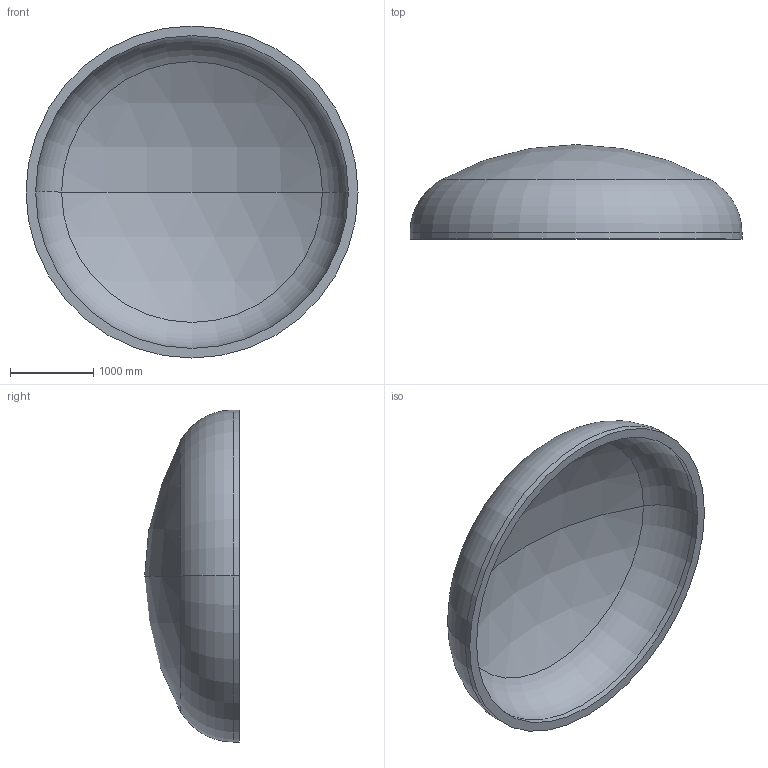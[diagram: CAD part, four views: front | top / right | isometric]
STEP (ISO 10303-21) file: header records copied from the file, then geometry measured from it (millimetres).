
FILE_DESCRIPTION (( 'STEP AP203' ), '1' );
FILE_NAME ('DIN 28013 Korbbogenform_-_Boden DIN 28013 - 4000 x 75 - I - s=116.step', '2016-07-01T22:54:34', ( '' ), ( '' ), 'SwSTEP 2.0', 'SolidWorks 2013', '' );
FILE_SCHEMA (( 'CONFIG_CONTROL_DESIGN' ));
Length unit declared in the file: millimetre
Products named in the file (1): DIN 28013 Korbbogenform_-_Boden DIN 28013 - 4000 x 75 - I - s=116
Bounding box: 4000 x 1138.92 x 4000 mm (x, y, z)
Volume: 2049300028.9 mm3; surface area: 36776354.9 mm2
Topology: 1 solids, 1 shells, 13 faces, 24 edges, 14 vertices
Faces by surface type: torus 4, cylinder 4, sphere 4, plane 1
Entity records: 407 total; most frequent: DIRECTION 72, CARTESIAN_POINT 52, ORIENTED_EDGE 48, AXIS2_PLACEMENT_3D 34, EDGE_CURVE 24, CIRCLE 20, EDGE_LOOP 14, VERTEX_POINT 14
